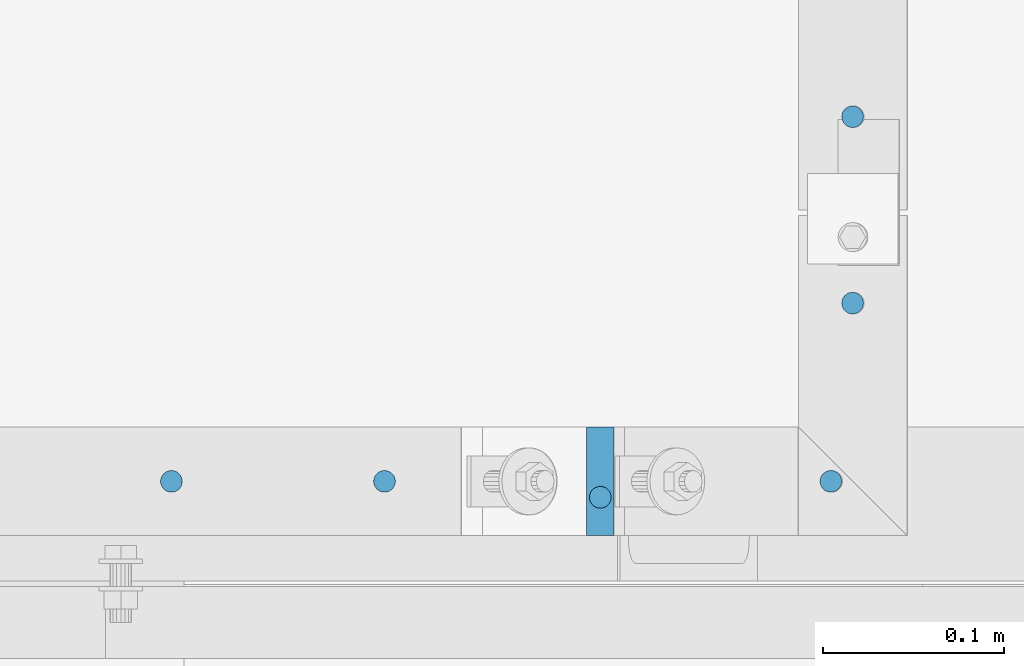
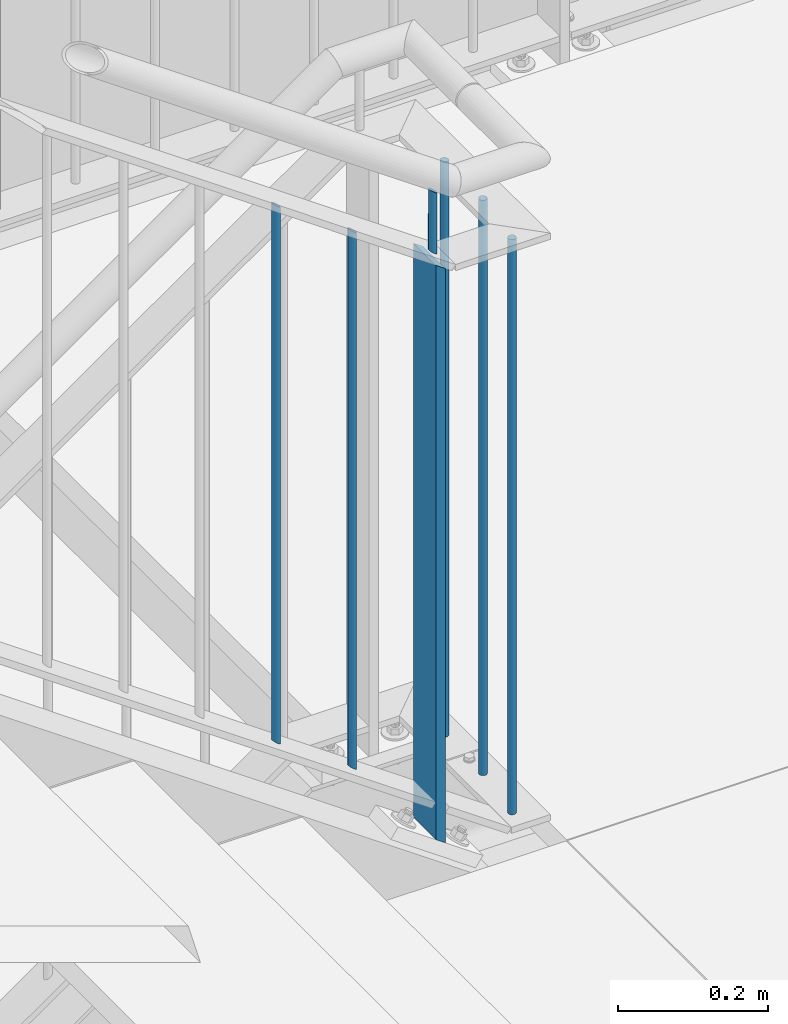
# One storey, part 96 of 831: 7 columns.
"""IFC2X3 building model written with IfcOpenShell, lengths in millimetres."""

from ifc_helpers import new_model, entity, si_unit, converted_unit, frame, origin, origin_with_axes, origin_2d, place, context, project, spatial, rectangle, circle, extrude, clip, halfspace, material, element, save


model = new_model("IFC2X3")

# Units and contexts
model_context = context("Model", 3, precision=1e-09, world=origin_with_axes())
ifc_project = project(units=[si_unit("LENGTHUNIT", "METRE", prefix="MILLI"), si_unit("AREAUNIT", "SQUARE_METRE"), si_unit("VOLUMEUNIT", "CUBIC_METRE"), converted_unit("PLANEANGLEUNIT", "DEGREE", entity("IfcPlaneAngleMeasure", 0.01745329), si_unit("PLANEANGLEUNIT", "RADIAN"), dimensions=[0, 0, 0, 0, 0, 0, 0])], contexts=[model_context])

# Site, building, storey
site_placement = place(None, origin_with_axes())
site = spatial("IfcSite", under=ifc_project, at=site_placement, Name="Site", CompositionType="ELEMENT")
building_placement = place(site_placement, origin_with_axes())
building = spatial("IfcBuilding", under=site, at=building_placement, Name="Struktur 1", CompositionType="ELEMENT")
storey_placement = place(building_placement, origin_with_axes())
storey = spatial("IfcBuildingStorey", under=building, at=storey_placement, Name="Default Storey", CompositionType="ELEMENT", Elevation=0.0)

# Columns
ifc_material = material(Name="S235JR")
column_1_placement = place(None, frame((7546.714402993, 5791.736971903, 6735.646879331), z_axis=(0.0, 0.0, 1.0), x_axis=(-1.0, 0.0, 0.0)))
element("IfcColumn", 1, at=column_1_placement, inside=storey, material=ifc_material, Name="Railing_Post_Stair#0", ObjectType="Railing_Post_Stair#0", context=model_context, shape_type="Clipping", body=[
    clip(clip(extrude(rectangle(XDim=15.0, YDim=60.0, at=origin_2d()), origin(), (0.0, 0.0, -1.0), 1013.014378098), halfspace(frame((2340.234381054, 5791.736971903, 670.057499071), z_axis=(-0.57512827, 0.0, 0.818063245), x_axis=(0.0, -1.0, 0.0)), True)), halfspace(frame((1899.190799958, 5791.736971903, 1297.39849832), z_axis=(0.57512827, 0.0, -0.818063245), x_axis=(0.0, 1.0, 0.0)), True)),
])
column_2_placement = place(None, frame((7427.464402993, 5791.736971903, 6792.055764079), z_axis=(0.0, 0.0, 1.0), x_axis=(-1.0, 0.0, 0.0)))
element("IfcColumn", 2, at=column_2_placement, inside=storey, material=ifc_material, Name="Railing_Picket_Stair#0", ObjectType="Railing_Picket_Stair#0", context=model_context, shape_type="Clipping", body=[
    clip(clip(extrude(circle(Radius=6.0, at=origin_2d()), origin(), (0.0, 0.0, -1.0), 897.037988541), halfspace(frame((1779.940799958, 5791.736971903, 1240.989613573), z_axis=(0.57512827, 0.0, -0.818063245), x_axis=(0.0, 1.0, 0.0)), True)), halfspace(frame((2192.22796757, 5791.736971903, 654.551776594), z_axis=(-0.57512827, 0.0, 0.818063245), x_axis=(0.0, -1.0, 0.0)), True)),
])
column_3_placement = place(None, frame((7309.714347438, 5791.736971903, 6874.838343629), z_axis=(0.0, 0.0, 1.0), x_axis=(-1.0, 0.0, 0.0)))
element("IfcColumn", 3, at=column_3_placement, inside=storey, material=ifc_material, Name="Railing_Picket_Stair#1", ObjectType="Railing_Picket_Stair#1", context=model_context, shape_type="Clipping", body=[
    clip(clip(extrude(circle(Radius=6.0, at=origin_2d()), origin(), (0.0, 0.0, -1.0), 897.037988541), halfspace(frame((1662.190744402, 5791.736971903, 1158.207034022), z_axis=(0.57512827, 0.0, -0.818063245), x_axis=(0.0, 1.0, 0.0)), True)), halfspace(frame((2074.477912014, 5791.736971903, 571.769197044), z_axis=(-0.57512827, 0.0, 0.818063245), x_axis=(0.0, -1.0, 0.0)), True)),
])
column_4_placement = place(None, frame((7546.714402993, 5782.936971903, 6820.44266268), z_axis=(0.0, 0.0, 1.0), x_axis=(0.0, 1.0, 0.0)))
element("IfcColumn", 4, at=column_4_placement, inside=storey, material=ifc_material, Name="Bar#0", ObjectType="Bar#0", context=model_context, shape_type="Clipping", body=[
    clip(clip(extrude(circle(Radius=6.0, at=origin_2d()), origin(), (0.0, 0.0, -1.0), 120.744805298), halfspace(frame((-5782.936971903, 1893.438367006, 1220.784983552), z_axis=(0.0, -0.57512827, 0.818063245), x_axis=(1.0, 0.0, 0.0)), True)), halfspace(frame((-5782.936971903, 1846.390387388, 1287.70609478), z_axis=(0.0, 0.57512827, -0.818063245), x_axis=(-1.0, 0.0, 0.0)), True)),
])
for number, where, z_axis, x_axis, name in (
    (5, (7674.115085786, 5791.736971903, 6683.6947367), (0.0, 0.0, 1.0), (-1.0, 0.0, 0.0), "Railing_Picket_Stair#0"),
    (6, (7686.115085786, 5890.236971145, 6683.6947367), (0.0, 0.0, 1.0), (-1.0, 0.0, 0.0), "Railing_Picket_Stair#0"),
    (7, (7686.115085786, 5993.236971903, 6683.6947367), (0.0, 0.0, 1.0), (-1.0, 0.0, 0.0), "Railing_Picket_Stair#0"),
):
    element("IfcColumn", number, at=place(None, frame(where, z_axis=z_axis, x_axis=x_axis)), inside=storey, material=ifc_material, Name=name, ObjectType="Railing_Picket_Stair#0", context=model_context, shape_type="SweptSolid", body=[
        extrude(circle(Radius=6.0, at=origin_2d()), origin(), (0.0, 0.0, -1.0), 938.8),
    ])

save(model, "model.ifc")
